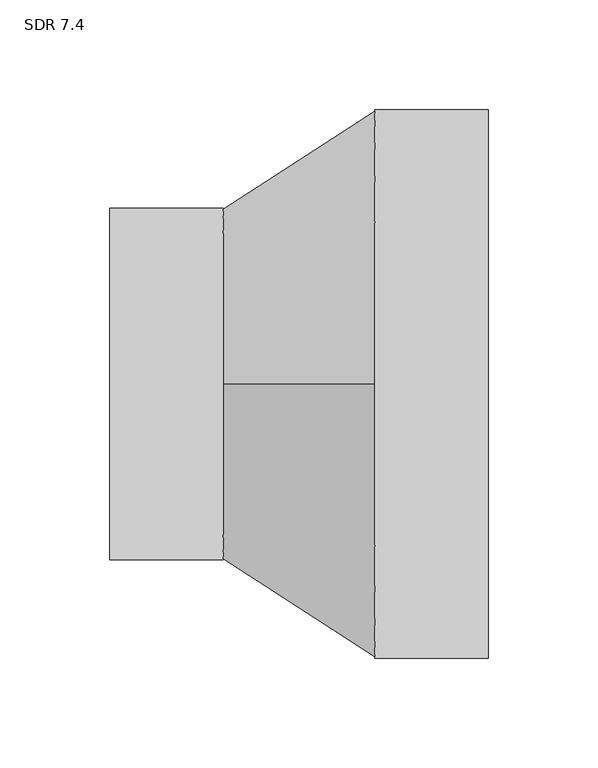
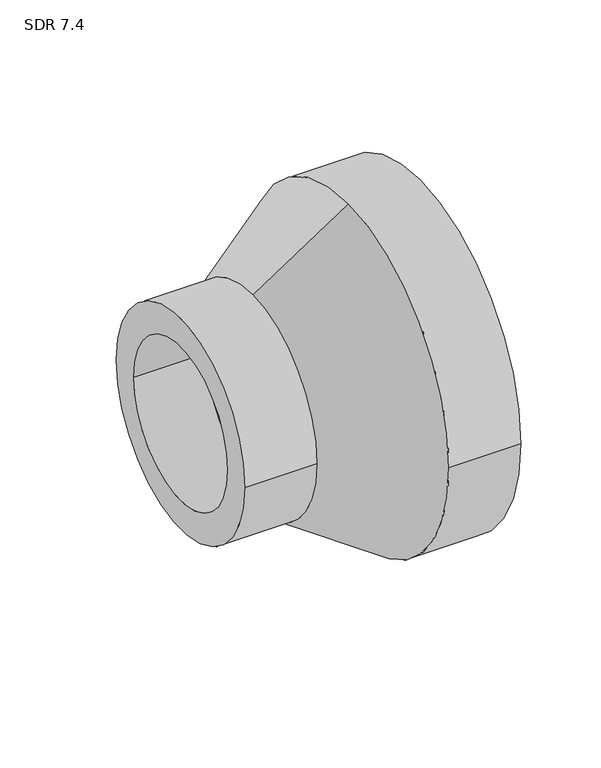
"""IFC4 building model written with IfcOpenShell, lengths in millimetres: pipe fitting geometry, Aquatherm - Reducing Coupling Combined - METRIC : SDR 7.4."""

from ifc_helpers import new_model, si_unit, frame, origin, place, context, project, spatial, polyline, circle_curve, source, transform, mapped, element, save
from ifc_brep_helpers import plane_surface, cylinder_surface, revolved_surface, advanced_brep


def sdr_7_4_22daa776(model_context):
    return source(origin(), model_context, "Body", "AdvancedBrep", [
        advanced_brep(
        [(-86.233, -80.01, 0.0), (-86.233, 80.01, 0.0), (-86.233, -58.3856757, 0.0), (-86.233, 58.3856757, 0.0), (-34.4932, 58.3856757, 0.0), (-34.4932, 0.0, 58.3856757), (-34.4932, -58.3856757, 0.0), (-34.4932, 0.0, -58.3856757), (-34.4932, 80.01, 0.0), (-34.4932, 0.0, -80.01), (-34.4932, -80.01, 0.0), (-34.4932, 0.0, 80.01), (86.233, -124.968, 0.0), (86.233, 124.968, 0.0), (86.233, -91.1928649, 0.0), (86.233, 91.1928649, 0.0), (34.4932, -124.968, 0.0), (34.4932, 0.0, -124.968), (34.4932, 124.968, 0.0), (34.4932, 0.0, 124.968), (34.4932, -91.1928649, 0.0), (34.4932, 0.0, 91.1928649), (34.4932, 91.1928649, 0.0), (34.4932, 0.0, -91.1928649)],
        [
            (0, 1, circle_curve(frame((-86.233, 0.0, 0.0), z_axis=(-1.0, 0.0, 0.0), x_axis=(0.0, 1.0, 0.0)), 80.01)),
            (1, 0, circle_curve(frame((-86.233, 0.0, 0.0), z_axis=(-1.0, 0.0, 0.0), x_axis=(0.0, 1.0, 0.0)), 80.01)),
            (2, 3, circle_curve(frame((-86.233, 0.0, 0.0), z_axis=(1.0, 0.0, 0.0), x_axis=(0.0, 1.0, 0.0)), 58.3856757)),
            (3, 2, circle_curve(frame((-86.233, 0.0, 0.0), z_axis=(1.0, 0.0, 0.0), x_axis=(0.0, 1.0, 0.0)), 58.3856757)),
            (3, 4),
            (4, 5, circle_curve(frame((-34.4932, 0.0, 0.0), z_axis=(1.0, 0.0, 0.0), x_axis=(0.0, 1.0, 0.0)), 58.3856757)),
            (5, 6, circle_curve(frame((-34.4932, 0.0, 0.0), z_axis=(1.0, 0.0, 0.0), x_axis=(0.0, 1.0, 0.0)), 58.3856757)),
            (6, 2),
            (6, 7, circle_curve(frame((-34.4932, 0.0, 0.0), z_axis=(1.0, 0.0, 0.0), x_axis=(0.0, 1.0, 0.0)), 58.3856757)),
            (7, 4, circle_curve(frame((-34.4932, 0.0, 0.0), z_axis=(1.0, 0.0, 0.0), x_axis=(0.0, 1.0, 0.0)), 58.3856757)),
            (1, 8),
            (8, 9, circle_curve(frame((-34.4932, 0.0, 0.0), z_axis=(-1.0, 0.0, 0.0), x_axis=(0.0, 1.0, 0.0)), 80.01)),
            (9, 10, circle_curve(frame((-34.4932, 0.0, 0.0), z_axis=(-1.0, 0.0, 0.0), x_axis=(0.0, 1.0, 0.0)), 80.01)),
            (10, 0),
            (10, 11, circle_curve(frame((-34.4932, 0.0, 0.0), z_axis=(-1.0, 0.0, 0.0), x_axis=(0.0, 1.0, 0.0)), 80.01)),
            (11, 8, circle_curve(frame((-34.4932, 0.0, 0.0), z_axis=(-1.0, 0.0, 0.0), x_axis=(0.0, 1.0, 0.0)), 80.01)),
            (12, 13, circle_curve(frame((86.233, 0.0, 0.0), z_axis=(1.0, 0.0, 0.0), x_axis=(0.0, 1.0, 0.0)), 124.968)),
            (13, 12, circle_curve(frame((86.233, 0.0, 0.0), z_axis=(1.0, 0.0, 0.0), x_axis=(0.0, 1.0, 0.0)), 124.968)),
            (14, 15, circle_curve(frame((86.233, 0.0, 0.0), z_axis=(-1.0, 0.0, 0.0), x_axis=(0.0, 1.0, 0.0)), 91.1928649)),
            (15, 14, circle_curve(frame((86.233, 0.0, 0.0), z_axis=(-1.0, 0.0, 0.0), x_axis=(0.0, 1.0, 0.0)), 91.1928649)),
            (12, 16),
            (16, 17, circle_curve(frame((34.4932, 0.0, 0.0), z_axis=(1.0, 0.0, 0.0), x_axis=(0.0, 1.0, 0.0)), 124.968)),
            (17, 18, circle_curve(frame((34.4932, 0.0, 0.0), z_axis=(1.0, 0.0, 0.0), x_axis=(0.0, 1.0, 0.0)), 124.968)),
            (18, 13),
            (18, 19, circle_curve(frame((34.4932, 0.0, 0.0), z_axis=(1.0, 0.0, 0.0), x_axis=(0.0, 1.0, 0.0)), 124.968)),
            (19, 16, circle_curve(frame((34.4932, 0.0, 0.0), z_axis=(1.0, 0.0, 0.0), x_axis=(0.0, 1.0, 0.0)), 124.968)),
            (14, 20),
            (20, 21, circle_curve(frame((34.4932, 0.0, 0.0), z_axis=(-1.0, 0.0, 0.0), x_axis=(0.0, 1.0, 0.0)), 91.1928649)),
            (21, 22, circle_curve(frame((34.4932, 0.0, 0.0), z_axis=(-1.0, 0.0, 0.0), x_axis=(0.0, 1.0, 0.0)), 91.1928649)),
            (22, 15),
            (22, 23, circle_curve(frame((34.4932, 0.0, 0.0), z_axis=(-1.0, 0.0, 0.0), x_axis=(0.0, 1.0, 0.0)), 91.1928649)),
            (23, 20, circle_curve(frame((34.4932, 0.0, 0.0), z_axis=(-1.0, 0.0, 0.0), x_axis=(0.0, 1.0, 0.0)), 91.1928649)),
            (11, 19),
            (17, 9),
            (21, 5),
            (7, 23),
        ],
        [
            plane_surface(frame((-86.233, 58.3856757, 0.0), z_axis=(-1.0, 0.0, 0.0), x_axis=(0.0, 0.0, 1.0))),
            revolved_surface(polyline([(-86.233, 58.3856757, 0.0), (-34.4932, 58.3856757, 0.0)]), (-86.233, 0.0, 0.0), (-1.0, 0.0, 0.0)),
            cylinder_surface(frame((0.0, 0.0, 0.0), z_axis=(1.0, 0.0, 0.0), x_axis=(0.0, 1.0, 0.0)), 80.01),
            plane_surface(frame((86.233, 124.968, 0.0), z_axis=(1.0, 0.0, 0.0), x_axis=(0.0, 0.0, 1.0))),
            cylinder_surface(frame((34.4932, 0.0, 0.0), z_axis=(1.0, 0.0, 0.0), x_axis=(0.0, 1.0, 0.0)), 124.968),
            revolved_surface(polyline([(34.4932, 91.1928649, 0.0), (86.233, 91.1928649, 0.0)]), (0.0, 0.0, 0.0), (-1.0, 0.0, 0.0)),
            revolved_surface(polyline([(34.4932, 0.0, 124.968), (-34.4932, 0.0, 80.01)]), (-661.4925384, 0.0, 0.0), (-1.0, 0.0, 0.0)),
            revolved_surface(polyline([(-34.4932, 0.0, 58.3856757), (34.4932, 0.0, 91.1928649)]), (-661.4925384, 0.0, 0.0), (-1.0, 0.0, 0.0)),
        ],
        [
            (0, [[1, 2], [3, 4]]),
            (1, [[-4, 5, 6, 7, 8]]),
            (1, [[-3, -8, 9, 10, -5]]),
            (2, [[-2, 11, 12, 13, 14]]),
            (2, [[-1, -14, 15, 16, -11]]),
            (3, [[17, 18], [19, 20]]),
            (4, [[-17, 21, 22, 23, 24]]),
            (4, [[-18, -24, 25, 26, -21]]),
            (5, [[-19, 27, 28, 29, 30]]),
            (5, [[-20, -30, 31, 32, -27]]),
            (6, [[33, -25, -23, 34, -12, -16]]),
            (6, [[-33, -15, -13, -34, -22, -26]]),
            (7, [[35, -6, -10, 36, -31, -29]]),
            (7, [[-35, -28, -32, -36, -9, -7]]),
        ],
    ),
    ])


if __name__ == "__main__":
    model = new_model("IFC4")
    model_context = context("Model", 3, world=origin())
    ifc_project = project(units=[si_unit("LENGTHUNIT", "METRE", prefix="MILLI")], contexts=[model_context])
    site = spatial("IfcSite", under=ifc_project)
    building = spatial("IfcBuilding", under=site)
    placement = place(None, origin())
    sdr_7_4_shape = sdr_7_4_22daa776(model_context)
    element("IfcPipeFitting", 1, ObjectType="Aquatherm - Reducing Coupling Combined - METRIC : SDR 7.4", at=placement, inside=building, context=model_context, shape_type="MappedRepresentation", body=[
        mapped(sdr_7_4_shape, transform((0.0, 0.0, 0.0), x_axis=(1.0, 0.0, 0.0), y_axis=(0.0, 1.0, 0.0), z_axis=(0.0, 0.0, 1.0))),
    ])
    save(model, "model.ifc")
